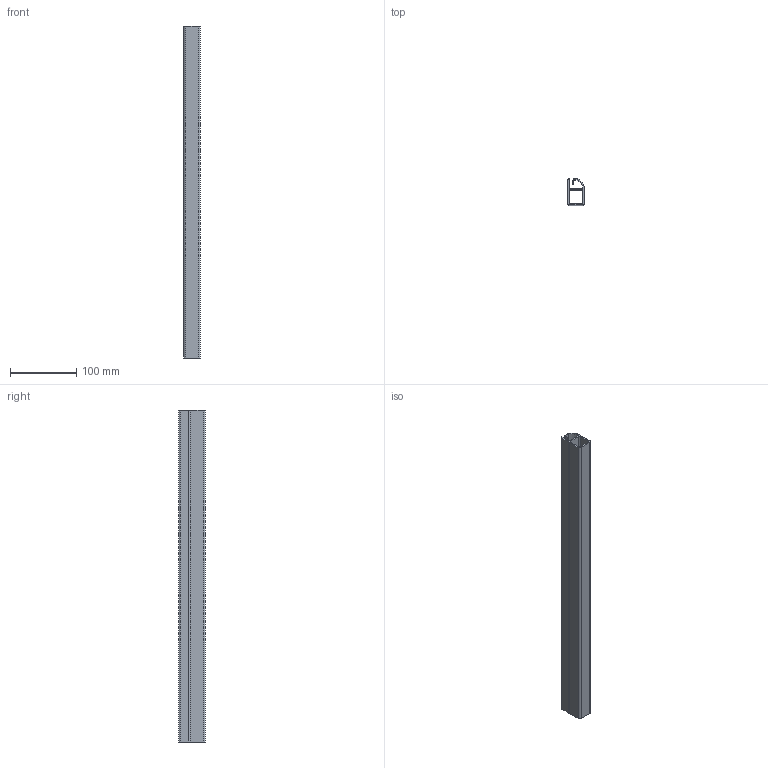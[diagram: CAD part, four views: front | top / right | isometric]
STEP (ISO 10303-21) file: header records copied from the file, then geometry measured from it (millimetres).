
FILE_DESCRIPTION (( 'STEP AP214' ), '1' );
FILE_NAME ('A40801.step', '2024-12-03T16:13:09', ( '' ), ( '' ), 'SwSTEP 2.0', 'SolidWorks 2023', '' );
FILE_SCHEMA (( 'AUTOMOTIVE_DESIGN' ));
Length unit declared in the file: millimetre
Products named in the file (1): A40801
Bounding box: 25 x 40 x 500 mm (x, y, z)
Volume: 133595 mm3; surface area: 134884.3 mm2
Topology: 1 solids, 1 shells, 37 faces, 105 edges, 70 vertices
Faces by surface type: plane 20, cylinder 17
Entity records: 1240 total; most frequent: DIRECTION 215, CARTESIAN_POINT 213, ORIENTED_EDGE 210, EDGE_CURVE 105, AXIS2_PLACEMENT_3D 72, VECTOR 71, LINE 71, VERTEX_POINT 70
